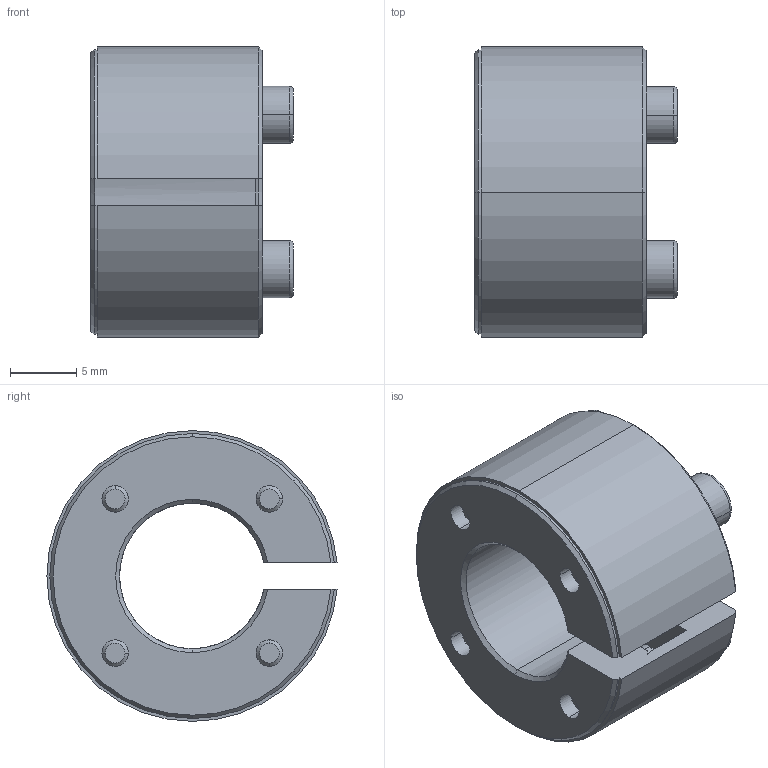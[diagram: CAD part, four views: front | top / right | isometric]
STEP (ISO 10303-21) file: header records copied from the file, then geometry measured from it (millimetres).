
FILE_DESCRIPTION (( 'STEP AP214' ), '1' );
FILE_NAME ('SAPL-E-11X22.STEP', '2024-07-12T02:00:44', ( '决扁浅何厘' ), ( '' ), 'SwSTEP 2.0', 'SolidWorks 2024', '' );
FILE_SCHEMA (( 'AUTOMOTIVE_DESIGN' ));
Length unit declared in the file: millimetre
Products named in the file (1): SAPL-E-11X22
Bounding box: 15.35 x 21.95 x 22 mm (x, y, z)
Volume: 2994.9 mm3; surface area: 3318.7 mm2
Topology: 1 solids, 1 shells, 139 faces, 333 edges, 212 vertices
Faces by surface type: cylinder 48, plane 48, cone 35, torus 8
Entity records: 4163 total; most frequent: CARTESIAN_POINT 792, DIRECTION 737, ORIENTED_EDGE 666, EDGE_CURVE 333, AXIS2_PLACEMENT_3D 290, VERTEX_POINT 212, EDGE_LOOP 169, VECTOR 157
